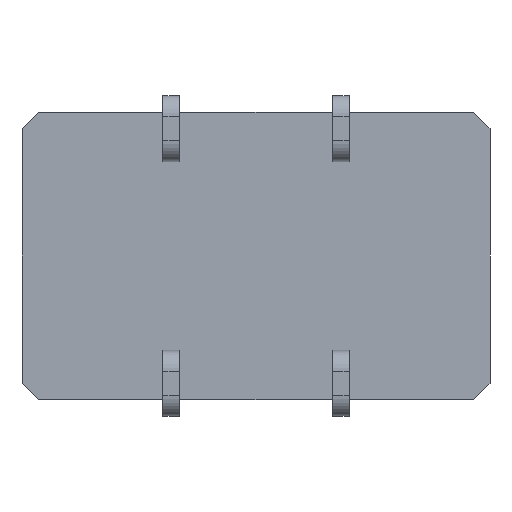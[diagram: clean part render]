
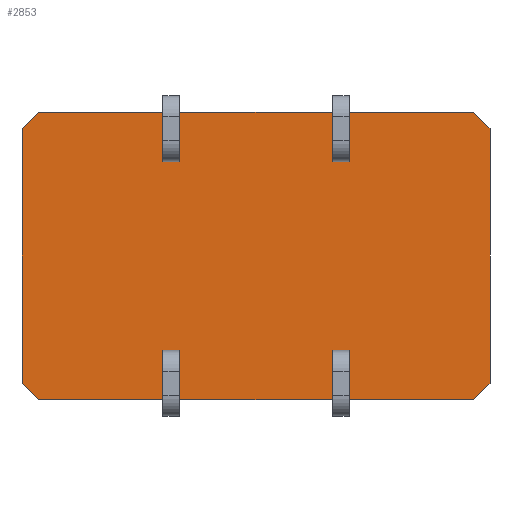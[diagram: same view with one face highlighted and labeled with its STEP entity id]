
A CAD part, front view. The second image highlights one B-rep face of the part: STEP entity #2853.
In plain terms, the highlighted planar face has unit normal (0, -1, 0).
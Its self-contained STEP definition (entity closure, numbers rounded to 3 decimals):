
#2695 = CARTESIAN_POINT ( 'NONE',  ( 7., 0.775, 3.8 ) ) ;
#2696 = VERTEX_POINT ( 'NONE', #2695 ) ;
#2703 = CARTESIAN_POINT ( 'NONE',  ( 7., 0.775, -3.8 ) ) ;
#2704 = VERTEX_POINT ( 'NONE', #2703 ) ;
#2705 = CARTESIAN_POINT ( 'NONE',  ( 7., 0.775, 4.3 ) ) ;
#2706 = DIRECTION ( 'NONE',  ( 0., 0., -1. ) ) ;
#2707 = VECTOR ( 'NONE', #2706, 1000. ) ;
#2708 = LINE ( 'NONE', #2705, #2707 ) ;
#2709 = EDGE_CURVE ( 'NONE', #2696, #2704, #2708, .T. ) ;
#2726 = CARTESIAN_POINT ( 'NONE',  ( 6.5, 0.775, -4.3 ) ) ;
#2727 = VERTEX_POINT ( 'NONE', #2726 ) ;
#2734 = CARTESIAN_POINT ( 'NONE',  ( -6.5, 0.775, -4.3 ) ) ;
#2735 = VERTEX_POINT ( 'NONE', #2734 ) ;
#2736 = CARTESIAN_POINT ( 'NONE',  ( -7., 0.775, -4.3 ) ) ;
#2737 = DIRECTION ( 'NONE',  ( -1., 0., 0. ) ) ;
#2738 = VECTOR ( 'NONE', #2737, 1000. ) ;
#2739 = LINE ( 'NONE', #2736, #2738 ) ;
#2740 = EDGE_CURVE ( 'NONE', #2727, #2735, #2739, .T. ) ;
#2756 = CARTESIAN_POINT ( 'NONE',  ( -7., 0.775, -3.8 ) ) ;
#2757 = VERTEX_POINT ( 'NONE', #2756 ) ;
#2758 = CARTESIAN_POINT ( 'NONE',  ( -7., 0.775, 3.8 ) ) ;
#2759 = VERTEX_POINT ( 'NONE', #2758 ) ;
#2760 = CARTESIAN_POINT ( 'NONE',  ( -7., 0.775, 4.3 ) ) ;
#2761 = DIRECTION ( 'NONE',  ( 0., 0., 1. ) ) ;
#2762 = VECTOR ( 'NONE', #2761, 1000. ) ;
#2763 = LINE ( 'NONE', #2760, #2762 ) ;
#2764 = EDGE_CURVE ( 'NONE', #2757, #2759, #2763, .T. ) ;
#2787 = CARTESIAN_POINT ( 'NONE',  ( -6.5, 0.775, 4.3 ) ) ;
#2788 = VERTEX_POINT ( 'NONE', #2787 ) ;
#2789 = CARTESIAN_POINT ( 'NONE',  ( 6.5, 0.775, 4.3 ) ) ;
#2790 = VERTEX_POINT ( 'NONE', #2789 ) ;
#2791 = CARTESIAN_POINT ( 'NONE',  ( -7., 0.775, 4.3 ) ) ;
#2792 = DIRECTION ( 'NONE',  ( 1., 0., 0. ) ) ;
#2793 = VECTOR ( 'NONE', #2792, 1000. ) ;
#2794 = LINE ( 'NONE', #2791, #2793 ) ;
#2795 = EDGE_CURVE ( 'NONE', #2788, #2790, #2794, .T. ) ;
#2818 = ORIENTED_EDGE ( 'NONE', *, *, #2709, .F. ) ;
#2819 = CARTESIAN_POINT ( 'NONE',  ( 5.55, 0.775, 5.25 ) ) ;
#2820 = DIRECTION ( 'NONE',  ( -0.707, 0., 0.707 ) ) ;
#2821 = VECTOR ( 'NONE', #2820, 1000. ) ;
#2822 = LINE ( 'NONE', #2819, #2821 ) ;
#2823 = EDGE_CURVE ( 'NONE', #2696, #2790, #2822, .T. ) ;
#2824 = ORIENTED_EDGE ( 'NONE', *, *, #2823, .T. ) ;
#2825 = ORIENTED_EDGE ( 'NONE', *, *, #2795, .F. ) ;
#2826 = CARTESIAN_POINT ( 'NONE',  ( -5.55, 0.775, 5.25 ) ) ;
#2827 = DIRECTION ( 'NONE',  ( -0.707, 0., -0.707 ) ) ;
#2828 = VECTOR ( 'NONE', #2827, 1000. ) ;
#2829 = LINE ( 'NONE', #2826, #2828 ) ;
#2830 = EDGE_CURVE ( 'NONE', #2788, #2759, #2829, .T. ) ;
#2831 = ORIENTED_EDGE ( 'NONE', *, *, #2830, .T. ) ;
#2832 = ORIENTED_EDGE ( 'NONE', *, *, #2764, .F. ) ;
#2833 = CARTESIAN_POINT ( 'NONE',  ( -5.55, 0.775, -5.25 ) ) ;
#2834 = DIRECTION ( 'NONE',  ( 0.707, 0., -0.707 ) ) ;
#2835 = VECTOR ( 'NONE', #2834, 1000. ) ;
#2836 = LINE ( 'NONE', #2833, #2835 ) ;
#2837 = EDGE_CURVE ( 'NONE', #2757, #2735, #2836, .T. ) ;
#2838 = ORIENTED_EDGE ( 'NONE', *, *, #2837, .T. ) ;
#2839 = ORIENTED_EDGE ( 'NONE', *, *, #2740, .F. ) ;
#2840 = CARTESIAN_POINT ( 'NONE',  ( 5.55, 0.775, -5.25 ) ) ;
#2841 = DIRECTION ( 'NONE',  ( 0.707, 0., 0.707 ) ) ;
#2842 = VECTOR ( 'NONE', #2841, 1000. ) ;
#2843 = LINE ( 'NONE', #2840, #2842 ) ;
#2844 = EDGE_CURVE ( 'NONE', #2727, #2704, #2843, .T. ) ;
#2845 = ORIENTED_EDGE ( 'NONE', *, *, #2844, .T. ) ;
#2846 = EDGE_LOOP ( 'NONE', ( #2818, #2824, #2825, #2831, #2832, #2838, #2839, #2845 ) ) ;
#2847 = FACE_OUTER_BOUND ( 'NONE', #2846, .T. ) ;
#2848 = CARTESIAN_POINT ( 'NONE',  ( 0., 0.775, 0. ) ) ;
#2849 = DIRECTION ( 'NONE',  ( 0., -1., 0. ) ) ;
#2850 = DIRECTION ( 'NONE',  ( 0., 0., -1. ) ) ;
#2851 = AXIS2_PLACEMENT_3D ( 'NONE', #2848, #2849, #2850 ) ;
#2852 = PLANE ( 'NONE', #2851 ) ;
#2853 = ADVANCED_FACE ( 'NONE', ( #2847 ), #2852, .T. ) ;
